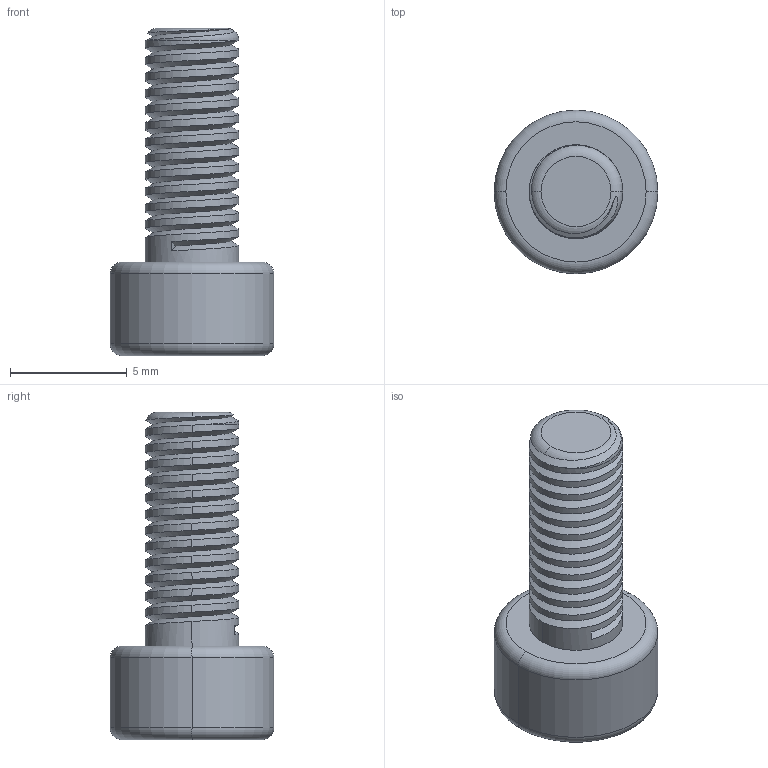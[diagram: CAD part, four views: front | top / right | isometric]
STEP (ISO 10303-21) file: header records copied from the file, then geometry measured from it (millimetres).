
FILE_DESCRIPTION (( 'STEP AP203' ), '1' );
FILE_NAME ('141-CE-IB-M4.STEP', '2015-07-09T09:02:19', ( '' ), ( '' ), 'SwSTEP 2.0', 'SolidWorks 2013', '' );
FILE_SCHEMA (( 'CONFIG_CONTROL_DESIGN' ));
Length unit declared in the file: millimetre
Products named in the file (1): 141-CE-IB-M4
Bounding box: 7 x 7 x 14 mm (x, y, z)
Volume: 250.8 mm3; surface area: 353.7 mm2
Topology: 1 solids, 1 shells, 47 faces, 125 edges, 82 vertices
Faces by surface type: cylinder 28, plane 11, torus 6, bspline 2
Entity records: 2682 total; most frequent: CARTESIAN_POINT 1589, ORIENTED_EDGE 250, DIRECTION 179, EDGE_CURVE 125, VERTEX_POINT 82, AXIS2_PLACEMENT_3D 65, VECTOR 49, EDGE_LOOP 49
